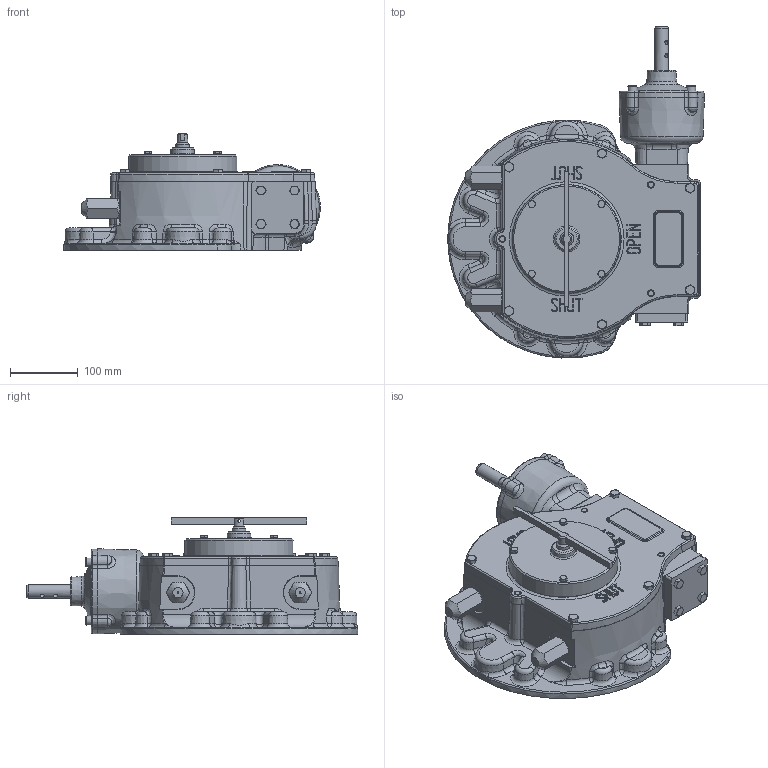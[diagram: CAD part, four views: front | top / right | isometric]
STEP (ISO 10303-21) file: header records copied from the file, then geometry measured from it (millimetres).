
FILE_DESCRIPTION( ( 'Unknown' ), '1' );
FILE_NAME( 'M:/Current Drawings/Internet datasheets/4 - STEP/AB3000CS-PR4 LB LH.stp', 'Unknown', ( 'Unknown' ), ( 'Unknown' ), 'PSStep 15.0.49', 'Unknown', ' ' );
FILE_SCHEMA( ( 'AUTOMOTIVE_DESIGN { 1 0 10303 214 1 1 1 1 }' ) );
Length unit declared in the file: millimetre
Products named in the file (1): 600PAP2528300
Bounding box: 378.03 x 489.05 x 172 mm (x, y, z)
Volume: 7041628.2 mm3; surface area: 868073.1 mm2
Topology: 1 solids, 56 shells, 2534 faces, 6454 edges, 3990 vertices
Faces by surface type: plane 728, cylinder 673, cone 485, bspline 290, torus 236, sphere 96, extrusion 26
Full cylindrical faces by diameter (mm): 4 x1, 4.917 x8, 6 x6, 6.647 x40, 7 x4, 8 x18, 8.376 x4, 8.5 x10, 9 x10, 10 x11, 13.27 x4, 14 x4, 15 x1, 17.294 x2, 19 x1, 20 x8, 20.5 x3, 23 x1, 25 x3, 25.2 x2, 26 x4, 28 x2, 29 x1, 30 x2, 35 x3, 38 x2, 47 x2, 102 x1, 104.555 x1, 110 x3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
Entity records: 137382 total; most frequent: CARTESIAN_POINT 61209, ORIENTED_EDGE 11708, DIRECTION 11186, EDGE_CURVE 5854, AXIS2_PLACEMENT_3D 4702, VERTEX_POINT 3844, EDGE_LOOP 2986, FACE_OUTER_BOUND 2757
